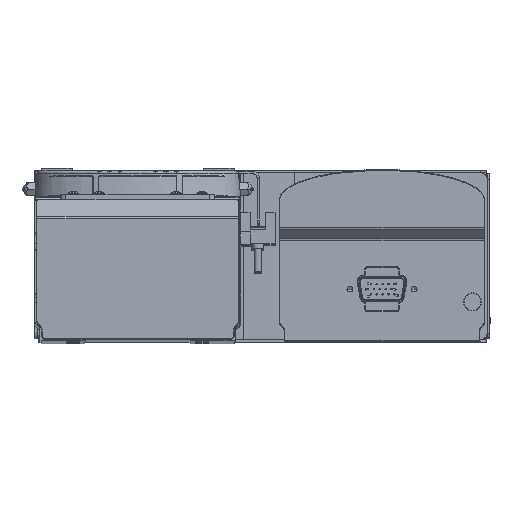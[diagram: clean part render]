
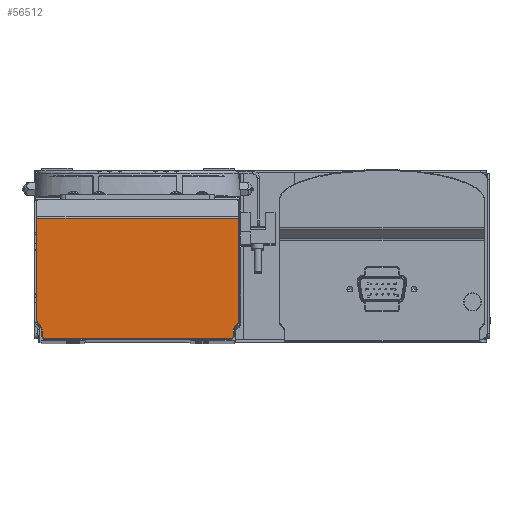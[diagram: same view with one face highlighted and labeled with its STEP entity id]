
A CAD part, top view. The second image highlights one B-rep face of the part: STEP entity #56512.
In plain terms, the highlighted planar face has unit normal (0, 0, 1).
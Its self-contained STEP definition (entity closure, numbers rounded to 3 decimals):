
#82 = EDGE_CURVE ( 'NONE', #79484, #81936, #19720, .T. ) ;
#217 = VECTOR ( 'NONE', #57610, 1000. ) ;
#2839 = CARTESIAN_POINT ( 'NONE',  ( 37.2, 9., 1010. ) ) ;
#4243 = LINE ( 'NONE', #52581, #17828 ) ;
#8313 = VERTEX_POINT ( 'NONE', #70964 ) ;
#9285 = CARTESIAN_POINT ( 'NONE',  ( -39.2, 9., 1010. ) ) ;
#9873 = DIRECTION ( 'NONE',  ( -1., 0., 0. ) ) ;
#11695 = ORIENTED_EDGE ( 'NONE', *, *, #15292, .T. ) ;
#14211 = CIRCLE ( 'NONE', #102736, 2.3 ) ;
#15292 = EDGE_CURVE ( 'NONE', #67149, #119939, #125069, .T. ) ;
#17269 = VERTEX_POINT ( 'NONE', #35051 ) ;
#17828 = VECTOR ( 'NONE', #100892, 1000. ) ;
#19449 = DIRECTION ( 'NONE',  ( 0.707, 0.707, 0. ) ) ;
#19656 = VERTEX_POINT ( 'NONE', #45925 ) ;
#19720 = CIRCLE ( 'NONE', #91086, 1.7 ) ;
#21825 = ORIENTED_EDGE ( 'NONE', *, *, #87967, .T. ) ;
#26101 = EDGE_CURVE ( 'NONE', #17269, #86598, #79681, .T. ) ;
#26631 = DIRECTION ( 'NONE',  ( 1., 0., 0. ) ) ;
#27036 = EDGE_LOOP ( 'NONE', ( #156413, #90761, #95390, #55199, #116435, #76309, #21825, #47054, #111524, #123051, #75832, #89660, #11695, #52950 ) ) ;
#27295 = VERTEX_POINT ( 'NONE', #62550 ) ;
#31184 = EDGE_CURVE ( 'NONE', #72468, #17269, #86832, .T. ) ;
#32914 = EDGE_CURVE ( 'NONE', #103172, #27295, #4243, .T. ) ;
#33089 = VECTOR ( 'NONE', #84550, 1000. ) ;
#35051 = CARTESIAN_POINT ( 'NONE',  ( 36.376, -21.2, 1010. ) ) ;
#35097 = CARTESIAN_POINT ( 'NONE',  ( -36.376, -21.2, 1010. ) ) ;
#36235 = CARTESIAN_POINT ( 'NONE',  ( 39.2, 9., 1010. ) ) ;
#37126 = VECTOR ( 'NONE', #144843, 1000. ) ;
#41696 = CARTESIAN_POINT ( 'NONE',  ( -37.2, -17.828, 1010. ) ) ;
#42289 = VECTOR ( 'NONE', #42320, 1000. ) ;
#42320 = DIRECTION ( 'NONE',  ( -1., 0., 0. ) ) ;
#43387 = LINE ( 'NONE', #91699, #105992 ) ;
#45925 = CARTESIAN_POINT ( 'NONE',  ( -39.2, 25.586, 1010. ) ) ;
#46689 = DIRECTION ( 'NONE',  ( 0., 0., -1. ) ) ;
#47054 = ORIENTED_EDGE ( 'NONE', *, *, #91146, .T. ) ;
#48110 = CARTESIAN_POINT ( 'NONE',  ( -39.5, -17.828, 1010. ) ) ;
#48226 = LINE ( 'NONE', #96547, #37126 ) ;
#51169 = DIRECTION ( 'NONE',  ( 0., 1., 0. ) ) ;
#51376 = CARTESIAN_POINT ( 'NONE',  ( 39.5, -17.828, 1010. ) ) ;
#52581 = CARTESIAN_POINT ( 'NONE',  ( -31.538, -22.538, 1010. ) ) ;
#52950 = ORIENTED_EDGE ( 'NONE', *, *, #109701, .T. ) ;
#55199 = ORIENTED_EDGE ( 'NONE', *, *, #153170, .T. ) ;
#56512 = ADVANCED_FACE ( 'NONE', ( #58574 ), #106872, .F. ) ;
#56750 = AXIS2_PLACEMENT_3D ( 'NONE', #51376, #99690, #147977 ) ;
#57320 = CARTESIAN_POINT ( 'NONE',  ( 37.5, -14.172, 1010. ) ) ;
#57610 = DIRECTION ( 'NONE',  ( 0., -1., 0. ) ) ;
#58293 = CIRCLE ( 'NONE', #146809, 1.7 ) ;
#58574 = FACE_OUTER_BOUND ( 'NONE', #27036, .T. ) ;
#62550 = CARTESIAN_POINT ( 'NONE',  ( -37.874, -16.202, 1010. ) ) ;
#67149 = VERTEX_POINT ( 'NONE', #148161 ) ;
#69139 = VERTEX_POINT ( 'NONE', #41696 ) ;
#70096 = CARTESIAN_POINT ( 'NONE',  ( -37.5, -14.172, 1010. ) ) ;
#70964 = CARTESIAN_POINT ( 'NONE',  ( 39.2, 25.586, 1010. ) ) ;
#71310 = CARTESIAN_POINT ( 'NONE',  ( -37.2, -20.376, 1010. ) ) ;
#72468 = VERTEX_POINT ( 'NONE', #35097 ) ;
#75746 = CARTESIAN_POINT ( 'NONE',  ( 39.2, -14.172, 1010. ) ) ;
#75832 = ORIENTED_EDGE ( 'NONE', *, *, #26101, .T. ) ;
#76309 = ORIENTED_EDGE ( 'NONE', *, *, #32914, .T. ) ;
#79484 = VERTEX_POINT ( 'NONE', #118942 ) ;
#79681 = LINE ( 'NONE', #127986, #145975 ) ;
#81936 = VERTEX_POINT ( 'NONE', #75746 ) ;
#84185 = EDGE_CURVE ( 'NONE', #94992, #72468, #150600, .T. ) ;
#84550 = DIRECTION ( 'NONE',  ( 0., 1., 0. ) ) ;
#85702 = VECTOR ( 'NONE', #26631, 1000. ) ;
#86598 = VERTEX_POINT ( 'NONE', #149430 ) ;
#86832 = LINE ( 'NONE', #135162, #85702 ) ;
#87249 = CARTESIAN_POINT ( 'NONE',  ( -36.288, -21.288, 1010. ) ) ;
#87967 = EDGE_CURVE ( 'NONE', #27295, #69139, #14211, .T. ) ;
#89660 = ORIENTED_EDGE ( 'NONE', *, *, #141552, .T. ) ;
#90761 = ORIENTED_EDGE ( 'NONE', *, *, #153259, .T. ) ;
#91086 = AXIS2_PLACEMENT_3D ( 'NONE', #57320, #105631, #153935 ) ;
#91146 = EDGE_CURVE ( 'NONE', #69139, #94992, #43387, .T. ) ;
#91699 = CARTESIAN_POINT ( 'NONE',  ( -37.2, 9., 1010. ) ) ;
#94992 = VERTEX_POINT ( 'NONE', #71310 ) ;
#95018 = DIRECTION ( 'NONE',  ( -1., 0., 0. ) ) ;
#95390 = ORIENTED_EDGE ( 'NONE', *, *, #121957, .T. ) ;
#96435 = DIRECTION ( 'NONE',  ( 0., 0., -1. ) ) ;
#96547 = CARTESIAN_POINT ( 'NONE',  ( 31.538, -22.538, 1010. ) ) ;
#98446 = VERTEX_POINT ( 'NONE', #134622 ) ;
#99690 = DIRECTION ( 'NONE',  ( 0., 0., -1. ) ) ;
#100892 = DIRECTION ( 'NONE',  ( 0.707, -0.707, 0. ) ) ;
#102523 = LINE ( 'NONE', #150816, #42289 ) ;
#102736 = AXIS2_PLACEMENT_3D ( 'NONE', #48110, #96435, #144729 ) ;
#103172 = VERTEX_POINT ( 'NONE', #105736 ) ;
#105631 = DIRECTION ( 'NONE',  ( 0., 0., 1. ) ) ;
#105736 = CARTESIAN_POINT ( 'NONE',  ( -38.702, -15.374, 1010. ) ) ;
#105992 = VECTOR ( 'NONE', #140030, 1000. ) ;
#106872 = PLANE ( 'NONE',  #110031 ) ;
#109701 = EDGE_CURVE ( 'NONE', #119939, #79484, #48226, .T. ) ;
#109787 = VECTOR ( 'NONE', #135559, 1000. ) ;
#110031 = AXIS2_PLACEMENT_3D ( 'NONE', #155197, #46689, #95018 ) ;
#110753 = VECTOR ( 'NONE', #51169, 1000. ) ;
#111373 = LINE ( 'NONE', #2839, #110753 ) ;
#111524 = ORIENTED_EDGE ( 'NONE', *, *, #84185, .T. ) ;
#116435 = ORIENTED_EDGE ( 'NONE', *, *, #135282, .T. ) ;
#117815 = LINE ( 'NONE', #9285, #217 ) ;
#118391 = DIRECTION ( 'NONE',  ( 0., 0., 1. ) ) ;
#118942 = CARTESIAN_POINT ( 'NONE',  ( 38.702, -15.374, 1010. ) ) ;
#119939 = VERTEX_POINT ( 'NONE', #127830 ) ;
#121957 = EDGE_CURVE ( 'NONE', #8313, #19656, #102523, .T. ) ;
#123051 = ORIENTED_EDGE ( 'NONE', *, *, #31184, .T. ) ;
#125069 = CIRCLE ( 'NONE', #56750, 2.3 ) ;
#127830 = CARTESIAN_POINT ( 'NONE',  ( 37.874, -16.202, 1010. ) ) ;
#127986 = CARTESIAN_POINT ( 'NONE',  ( 37.288, -20.288, 1010. ) ) ;
#134622 = CARTESIAN_POINT ( 'NONE',  ( -39.2, -14.172, 1010. ) ) ;
#135162 = CARTESIAN_POINT ( 'NONE',  ( 0., -21.2, 1010. ) ) ;
#135282 = EDGE_CURVE ( 'NONE', #98446, #103172, #58293, .T. ) ;
#135559 = DIRECTION ( 'NONE',  ( 0.707, -0.707, 0. ) ) ;
#140030 = DIRECTION ( 'NONE',  ( 0., -1., 0. ) ) ;
#141552 = EDGE_CURVE ( 'NONE', #86598, #67149, #111373, .T. ) ;
#144713 = LINE ( 'NONE', #36235, #33089 ) ;
#144729 = DIRECTION ( 'NONE',  ( -1., 0., 0. ) ) ;
#144843 = DIRECTION ( 'NONE',  ( 0.707, 0.707, 0. ) ) ;
#145975 = VECTOR ( 'NONE', #19449, 1000. ) ;
#146809 = AXIS2_PLACEMENT_3D ( 'NONE', #70096, #118391, #9873 ) ;
#147977 = DIRECTION ( 'NONE',  ( -1., 0., 0. ) ) ;
#148161 = CARTESIAN_POINT ( 'NONE',  ( 37.2, -17.828, 1010. ) ) ;
#149430 = CARTESIAN_POINT ( 'NONE',  ( 37.2, -20.376, 1010. ) ) ;
#150600 = LINE ( 'NONE', #87249, #109787 ) ;
#150816 = CARTESIAN_POINT ( 'NONE',  ( -39.5, 25.586, 1010. ) ) ;
#153170 = EDGE_CURVE ( 'NONE', #19656, #98446, #117815, .T. ) ;
#153259 = EDGE_CURVE ( 'NONE', #81936, #8313, #144713, .T. ) ;
#153935 = DIRECTION ( 'NONE',  ( -1., 0., 0. ) ) ;
#155197 = CARTESIAN_POINT ( 'NONE',  ( 0., 9., 1010. ) ) ;
#156413 = ORIENTED_EDGE ( 'NONE', *, *, #82, .T. ) ;
